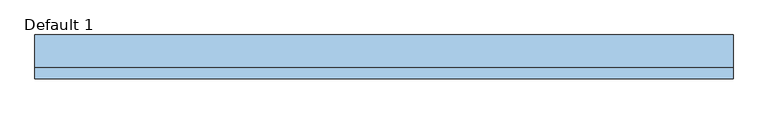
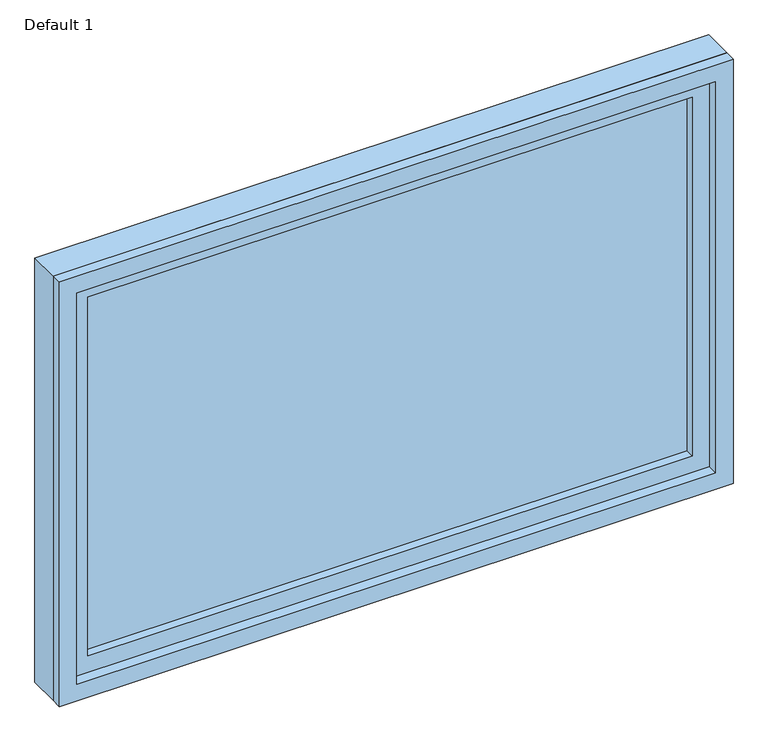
"""IFC4 building model written with IfcOpenShell, lengths in millimetres: window geometry, Planitar-Fixed : Default 1."""

import ifcopenshell
import ifcopenshell.guid

model = None  # the IFC model being written
_history = None  # IfcOwnerHistory: only IFC2X3 demands one
_inside = {}  # id of a spatial element -> (the spatial element, [elements in it])
_under = {}  # id of a project, library or spatial element -> (it, [spatial elements below it])
_declared = {}  # id of a project -> (the project, [libraries it declares])
_typed = {}  # id of a type object -> (the type object, [elements of that type])
_made_of = {}  # id of a material, layer set ... -> (it, [elements and type objects made of it])


def new_model(schema):
    """Start an empty IFC model of exactly this schema.

    Asked for "IFC4X3", IfcOpenShell would pick the latest addendum, in which some entities
    have other attributes; the version numbers below select the first issue.
    IFC2X3 requires an IfcOwnerHistory on every rooted entity: one is made here for all.
    """
    global model, _history
    if schema == "IFC4X3":
        model = ifcopenshell.file(schema_version=(4, 3, 0, 0))
    else:
        model = ifcopenshell.file(schema=schema)
    _inside.clear()
    _under.clear()
    _declared.clear()
    _typed.clear()
    _made_of.clear()
    _history = None
    if model.schema == "IFC2X3":
        org = make("IfcOrganization", Name="unknown")
        user = make(
            "IfcPersonAndOrganization",
            ThePerson=make("IfcPerson", FamilyName="unknown"),
            TheOrganization=org,
        )
        app = make(
            "IfcApplication",
            ApplicationDeveloper=org,
            Version="unknown",
            ApplicationFullName="unknown",
            ApplicationIdentifier="unknown",
        )
        _history = make(
            "IfcOwnerHistory",
            OwningUser=user,
            OwningApplication=app,
            ChangeAction="ADDED",
            CreationDate=0,
        )
    return model


def make(cls, **values):
    """One entity of the class cls with the attributes given. An attribute that is None is left unset."""
    return model.create_entity(
        cls, **{name: value for name, value in values.items() if value is not None}
    )


def rooted(cls, **values):
    """An entity with a GlobalId (a new one), such as an element, a storey or a relation."""
    return make(cls, GlobalId=ifcopenshell.guid.new(), OwnerHistory=_history, **values)


def si_unit(unit_type, name, prefix=None):
    """IfcSIUnit, for example si_unit("LENGTHUNIT", "METRE", prefix="MILLI")."""
    return make("IfcSIUnit", UnitType=unit_type, Prefix=prefix, Name=name)


def assignment(units):
    """IfcUnitAssignment: the units of a project."""
    return None if units is None else make("IfcUnitAssignment", Units=units)


def point(xyz):
    """IfcCartesianPoint."""
    return None if xyz is None else make("IfcCartesianPoint", Coordinates=xyz)


def direction(xyz):
    """IfcDirection."""
    return None if xyz is None else make("IfcDirection", DirectionRatios=xyz)


def frame(location, z_axis=None, x_axis=None):
    """IfcAxis2Placement3D, a coordinate frame: its origin and axes. An axis left out is left unset."""
    return make(
        "IfcAxis2Placement3D",
        Location=point(location),
        Axis=direction(z_axis),
        RefDirection=direction(x_axis),
    )


def origin():
    """The frame at (0, 0, 0) with its axes left unset."""
    return frame((0.0, 0.0, 0.0))


def place(relative_to, where):
    """IfcLocalPlacement: puts the frame where relative to a parent placement (None: the world)."""
    return make(
        "IfcLocalPlacement", PlacementRelTo=relative_to, RelativePlacement=where
    )


def context(
    kind, dimensions, precision=None, world=None, true_north=None, identifier=None
):
    """IfcGeometricRepresentationContext, for example the 3D "Model" context."""
    return make(
        "IfcGeometricRepresentationContext",
        ContextIdentifier=identifier,
        ContextType=kind,
        CoordinateSpaceDimension=dimensions,
        Precision=precision,
        WorldCoordinateSystem=world,
        TrueNorth=true_north,
    )


def project(units=None, contexts=None):
    """IfcProject with its units and contexts."""
    return rooted(
        "IfcProject",
        Name="project",
        RepresentationContexts=contexts,
        UnitsInContext=assignment(units),
    )


def spatial(cls, under=None, at=None, **own):
    """A site, building, storey or space (cls), placed at a placement, below another one or the project."""
    s = rooted(cls, ObjectPlacement=at, **own)
    if under is not None:
        _under.setdefault(under.id(), (under, []))[1].append(s)
    return s


def polyline(points):
    """IfcPolyline through the points."""
    return make("IfcPolyline", Points=[point(p) for p in points])


def outline(outer, holes=None, kind="AREA"):
    """IfcArbitraryClosedProfileDef: a profile drawn as a closed curve; with holes, ...WithVoids."""
    if holes is None:
        return make("IfcArbitraryClosedProfileDef", ProfileType=kind, OuterCurve=outer)
    return make(
        "IfcArbitraryProfileDefWithVoids",
        ProfileType=kind,
        OuterCurve=outer,
        InnerCurves=holes,
    )


def extrude(swept, where, along, depth):
    """IfcExtrudedAreaSolid: the profile swept, set in the frame where, extruded along a direction by depth."""
    return make(
        "IfcExtrudedAreaSolid",
        SweptArea=swept,
        Position=where,
        ExtrudedDirection=direction(along),
        Depth=depth,
    )


def shape(context_of_items, identifier, shape_type, items):
    """IfcShapeRepresentation: the items that make up one representation, for example the "Body"."""
    return make(
        "IfcShapeRepresentation",
        ContextOfItems=context_of_items,
        RepresentationIdentifier=identifier,
        RepresentationType=shape_type,
        Items=items,
    )


def source(mapping_origin, context_of_items, identifier, shape_type, items):
    """IfcRepresentationMap: a shape defined once, which mapped items show again and again."""
    return make(
        "IfcRepresentationMap",
        MappingOrigin=mapping_origin,
        MappedRepresentation=shape(context_of_items, identifier, shape_type, items),
    )


def transform(
    local_origin,
    x_axis=None,
    y_axis=None,
    z_axis=None,
    scale=None,
    scale2=None,
    scale3=None,
    uniform=True,
):
    """IfcCartesianTransformationOperator3D, or its non-uniform kind. x_axis, y_axis, z_axis: its Axis1, 2, 3."""
    if uniform:
        return make(
            "IfcCartesianTransformationOperator3D",
            Axis1=direction(x_axis),
            Axis2=direction(y_axis),
            LocalOrigin=point(local_origin),
            Scale=scale,
            Axis3=direction(z_axis),
        )
    return make(
        "IfcCartesianTransformationOperator3DnonUniform",
        Axis1=direction(x_axis),
        Axis2=direction(y_axis),
        LocalOrigin=point(local_origin),
        Scale=scale,
        Axis3=direction(z_axis),
        Scale2=scale2,
        Scale3=scale3,
    )


def mapped(mapping_source, mapping_target):
    """IfcMappedItem: shows the shape of a source again, moved by a transform."""
    return make(
        "IfcMappedItem", MappingSource=mapping_source, MappingTarget=mapping_target
    )


def made_of(thing, what):
    """Note that an element or type object is made of a material, layer set ...; save() writes the relation."""
    if what is not None:
        _made_of.setdefault(what.id(), (what, []))[1].append(thing)
    return thing


def element(
    cls,
    number,
    at=None,
    inside=None,
    cuts=None,
    type_object=None,
    material=None,
    context=None,
    identifier="Body",
    shape_type=None,
    held_by="IfcProductDefinitionShape",
    body=None,
    shapes=None,
    **own,
):
    """One element of the class cls, such as IfcWall. Its Tag is "e" and its number.

    at: its placement. inside: the storey or other place that contains it. cuts: it is an
    opening in that element (IfcRelVoidsElement). A single representation is given by context,
    identifier, shape_type and body (its items); several are given by shapes. held_by: the class
    of the entity that holds the representations. save() writes the other relations.
    """
    e = rooted(cls, Tag="e%d" % number, ObjectPlacement=at, **own)
    if body is not None:
        shapes = [shape(context, identifier, shape_type, body)]
    if shapes is not None:
        e.Representation = make(held_by, Representations=shapes)
    if inside is not None:
        _inside.setdefault(inside.id(), (inside, []))[1].append(e)
    if cuts is not None:
        rooted(
            "IfcRelVoidsElement", RelatingBuildingElement=cuts, RelatedOpeningElement=e
        )
    if type_object is not None:
        _typed.setdefault(type_object.id(), (type_object, []))[1].append(e)
    return made_of(e, material)


def aggregate(whole, parts):
    """IfcRelAggregates: a whole, such as a stair, and the parts it consists of."""
    return rooted("IfcRelAggregates", RelatingObject=whole, RelatedObjects=parts)


def save(model, path):
    """Write the relations noted so far, then the file.

    IfcRelAggregates (storeys below a building ...), IfcRelContainedInSpatialStructure (elements
    in a storey), IfcRelDefinesByType, IfcRelAssociatesMaterial and IfcRelDeclares: one each for
    every whole, place, type object, material and project.
    """
    for whole, parts in _under.values():
        aggregate(whole, parts)
    for where, things in _inside.values():
        rooted(
            "IfcRelContainedInSpatialStructure",
            RelatedElements=things,
            RelatingStructure=where,
        )
    for kind, things in _typed.values():
        rooted("IfcRelDefinesByType", RelatedObjects=things, RelatingType=kind)
    for what, things in _made_of.values():
        rooted("IfcRelAssociatesMaterial", RelatedObjects=things, RelatingMaterial=what)
    for by, libraries in _declared.values():
        rooted("IfcRelDeclares", RelatingContext=by, RelatedDefinitions=libraries)
    model.write(path)


def default_1_57e22ce4(model_context):
    return source(origin(), model_context, "Body", "SweptSolid", [
        extrude(outline(polyline([(1708.2, -590.6), (933.4, -590.6), (933.4, 590.6), (1708.2, 590.6), (1708.2, -590.6)]), holes=[polyline([(1664.2, -546.6), (1664.2, 546.6), (977.4, 546.6), (977.4, -546.6), (1664.2, -546.6)])]), frame((0.0, -5.6, 0.0), z_axis=(0.0, 1.0, 0.0), x_axis=(0.0, 0.0, 1.0)), (0.0, 0.0, 1.0), 44.0),
        extrude(outline(polyline([(1727.2, -609.6), (914.4, -609.6), (914.4, 609.6), (1727.2, 609.6), (1727.2, -609.6)]), holes=[polyline([(1708.2, -590.6), (1708.2, 590.6), (933.4, 590.6), (933.4, -590.6), (1708.2, -590.6)])]), frame((0.0, -5.6, 0.0), z_axis=(0.0, 1.0, 0.0), x_axis=(0.0, 0.0, 1.0)), (0.0, 0.0, 1.0), 56.7),
        extrude(outline(polyline([(1727.2, -609.6), (914.4, -609.6), (914.4, 609.6), (1727.2, 609.6), (1727.2, -609.6)]), holes=[polyline([(1695.2, -577.6), (1695.2, 577.6), (946.4, 577.6), (946.4, -577.6), (1695.2, -577.6)])]), frame((0.0, -25.1, 0.0), z_axis=(0.0, 1.0, 0.0), x_axis=(0.0, 0.0, 1.0)), (0.0, 0.0, 1.0), 19.5),
        extrude(outline(polyline([(-546.6, 22.4), (546.6, 22.4), (546.6, 10.4), (-546.6, 10.4), (-546.6, 22.4)])), frame((0.0, 0.0, 977.4), z_axis=(0.0, 0.0, 1.0), x_axis=(1.0, 0.0, 0.0)), (0.0, 0.0, 1.0), 686.8),
    ])


if __name__ == "__main__":
    model = new_model("IFC4")
    model_context = context("Model", 3, world=origin())
    ifc_project = project(units=[si_unit("LENGTHUNIT", "METRE", prefix="MILLI")], contexts=[model_context])
    site = spatial("IfcSite", under=ifc_project)
    building = spatial("IfcBuilding", under=site)
    placement = place(None, origin())
    default_1_shape = default_1_57e22ce4(model_context)
    element("IfcWindow", 1, ObjectType="Planitar-Fixed : Default 1", at=placement, inside=building, context=model_context, shape_type="MappedRepresentation", body=[
        mapped(default_1_shape, transform((0.0, 0.0, 0.0), x_axis=(1.0, 0.0, 0.0), y_axis=(0.0, 1.0, 0.0), z_axis=(0.0, 0.0, 1.0))),
    ])
    save(model, "model.ifc")
